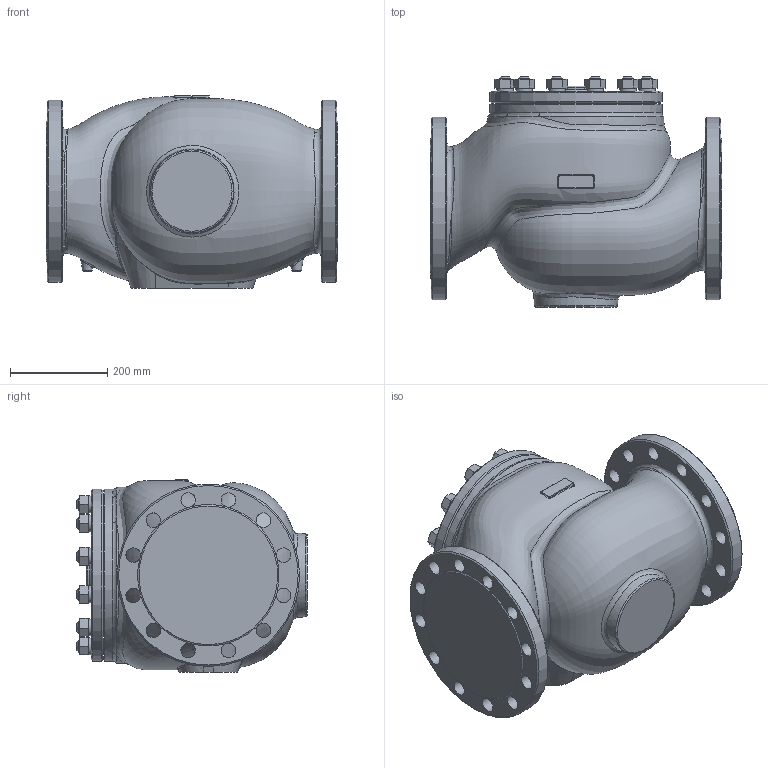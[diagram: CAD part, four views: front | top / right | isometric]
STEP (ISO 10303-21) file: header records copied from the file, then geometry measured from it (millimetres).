
FILE_DESCRIPTION(/* description */ (''),/* implementation_level */ '2;1');
FILE_NAME(/* name */ 'sestZV226_DN200.stp',/* time_stamp */ '2012-03-06T06:24:01+01:00',/* author */ (''),/* organization */ ('LDM'),/* preprocessor_version */ 'ST-DEVELOPER v11',/* originating_system */ 'SIEMENS PLM Software NX 7.0',/* authorisation */ '');
FILE_SCHEMA (('CONFIG_CONTROL_DESIGN'));
Length unit declared in the file: millimetre
Products named in the file (1): adam9E31edig
Bounding box: 600 x 473.33 x 395 mm (x, y, z)
Volume: 63921028.1 mm3; surface area: 1417366.7 mm2
Topology: 1 solids, 1 shells, 486 faces, 1217 edges, 757 vertices
Faces by surface type: cone 169, plane 155, cylinder 96, torus 35, bspline 31
Full cylindrical faces by diameter (mm): 24 x36, 30 x24, 100 x1, 253 x1, 354 x2, 375 x2
Entity records: 34109 total; most frequent: CARTESIAN_POINT 23657, ORIENTED_EDGE 2100, DIRECTION 2026, EDGE_CURVE 1050, AXIS2_PLACEMENT_3D 941, EDGE_LOOP 708, VERTEX_POINT 692, ADVANCED_FACE 486
